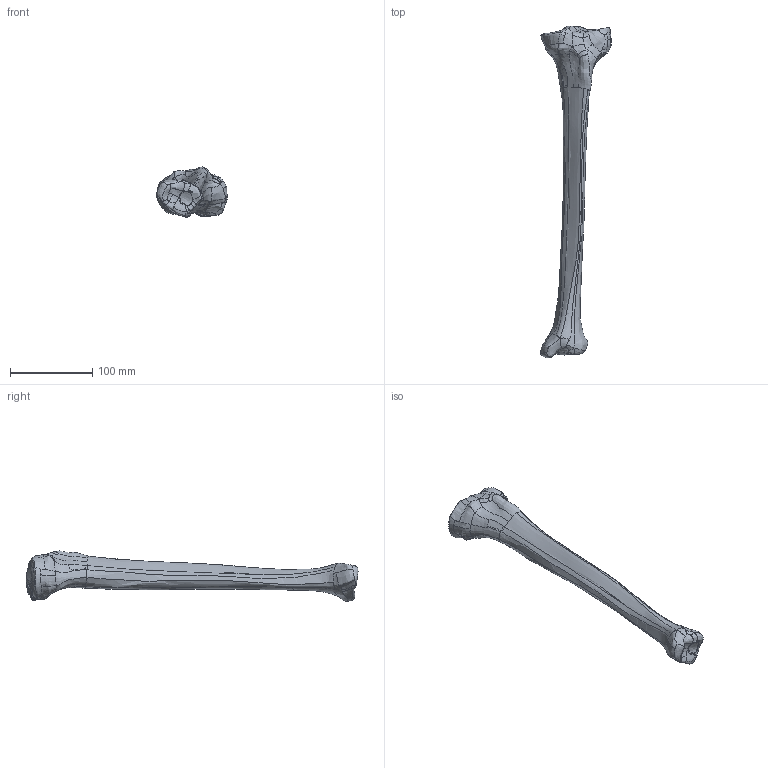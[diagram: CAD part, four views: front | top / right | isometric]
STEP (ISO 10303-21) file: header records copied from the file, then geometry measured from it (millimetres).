
FILE_DESCRIPTION (( 'STEP AP203' ), '1' );
FILE_NAME ('1104.STEP', '2025-06-05T15:11:42', ( '' ), ( '' ), 'SwSTEP 2.0', 'SolidWorks 2024', '' );
FILE_SCHEMA (( 'CONFIG_CONTROL_DESIGN' ));
Products named in the file (1): 1104
Bounding box: 85.97 x 404.75 x 61.1 mm (x, y, z)
Volume: 382205.4 mm3; surface area: 49899.8 mm2
Topology: 1 solids, 1 shells, 386 faces, 1019 edges, 646 vertices
Faces by surface type: bspline 384, plane 2
Entity records: 48805 total; most frequent: CARTESIAN_POINT 42427, ORIENTED_EDGE 2038, B_SPLINE_CURVE_WITH_KNOTS 1019, EDGE_CURVE 1019, VERTEX_POINT 646, EDGE_LOOP 397, FACE_OUTER_BOUND 386, ADVANCED_FACE 386
